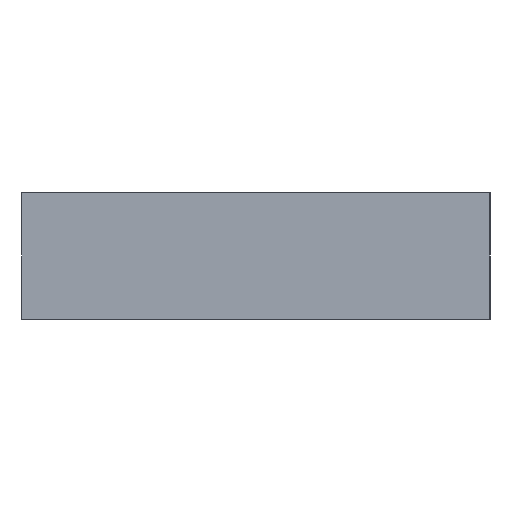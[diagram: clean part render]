
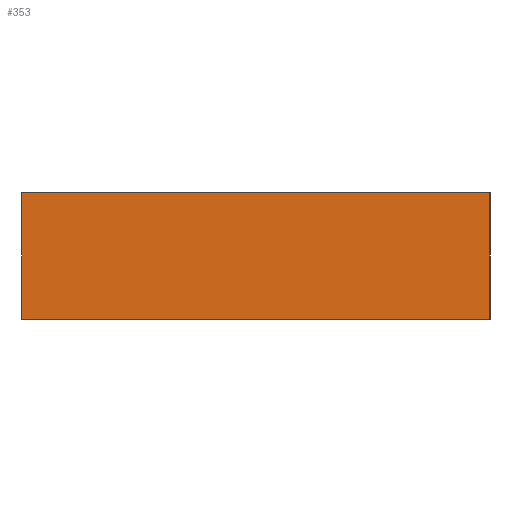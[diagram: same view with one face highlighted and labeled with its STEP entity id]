
A CAD part, left-side view. The second image highlights one B-rep face of the part: STEP entity #353.
In plain terms, the highlighted planar face has unit normal (-1, 0, 0).
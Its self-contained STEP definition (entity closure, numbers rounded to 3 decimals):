
#13 = LINE ( 'NONE', #611, #694 ) ;
#24 = CARTESIAN_POINT ( 'NONE',  ( -26., 44.4, 0. ) ) ;
#33 = VERTEX_POINT ( 'NONE', #214 ) ;
#51 = VERTEX_POINT ( 'NONE', #776 ) ;
#89 = LINE ( 'NONE', #733, #647 ) ;
#95 = DIRECTION ( 'NONE',  ( 0., 1., 0. ) ) ;
#108 = CARTESIAN_POINT ( 'NONE',  ( -26., 44.4, 12. ) ) ;
#109 = VERTEX_POINT ( 'NONE', #431 ) ;
#137 = DIRECTION ( 'NONE',  ( 0., 0., 1. ) ) ;
#156 = FACE_OUTER_BOUND ( 'NONE', #837, .T. ) ;
#161 = DIRECTION ( 'NONE',  ( 1., 0., 0. ) ) ;
#162 = VERTEX_POINT ( 'NONE', #108 ) ;
#174 = EDGE_CURVE ( 'NONE', #33, #109, #193, .T. ) ;
#193 = LINE ( 'NONE', #526, #255 ) ;
#214 = CARTESIAN_POINT ( 'NONE',  ( -26., 0., 0. ) ) ;
#255 = VECTOR ( 'NONE', #137, 1000. ) ;
#284 = PLANE ( 'NONE',  #361 ) ;
#286 = DIRECTION ( 'NONE',  ( 0., 0., 1. ) ) ;
#313 = ORIENTED_EDGE ( 'NONE', *, *, #659, .F. ) ;
#353 = ADVANCED_FACE ( 'NONE', ( #156 ), #284, .F. ) ;
#361 = AXIS2_PLACEMENT_3D ( 'NONE', #24, #161, #670 ) ;
#431 = CARTESIAN_POINT ( 'NONE',  ( -26., 0., 12. ) ) ;
#482 = DIRECTION ( 'NONE',  ( 0., 1., 0. ) ) ;
#509 = ORIENTED_EDGE ( 'NONE', *, *, #651, .F. ) ;
#526 = CARTESIAN_POINT ( 'NONE',  ( -26., 0., 0. ) ) ;
#542 = LINE ( 'NONE', #811, #806 ) ;
#601 = EDGE_CURVE ( 'NONE', #109, #162, #542, .T. ) ;
#611 = CARTESIAN_POINT ( 'NONE',  ( -26., 0., 0. ) ) ;
#631 = ORIENTED_EDGE ( 'NONE', *, *, #601, .T. ) ;
#647 = VECTOR ( 'NONE', #286, 1000. ) ;
#651 = EDGE_CURVE ( 'NONE', #33, #51, #13, .T. ) ;
#659 = EDGE_CURVE ( 'NONE', #51, #162, #89, .T. ) ;
#670 = DIRECTION ( 'NONE',  ( 0., 1., 0. ) ) ;
#683 = ORIENTED_EDGE ( 'NONE', *, *, #174, .T. ) ;
#694 = VECTOR ( 'NONE', #95, 1000. ) ;
#733 = CARTESIAN_POINT ( 'NONE',  ( -26., 44.4, 0. ) ) ;
#776 = CARTESIAN_POINT ( 'NONE',  ( -26., 44.4, 0. ) ) ;
#806 = VECTOR ( 'NONE', #482, 1000. ) ;
#811 = CARTESIAN_POINT ( 'NONE',  ( -26., 44.4, 12. ) ) ;
#837 = EDGE_LOOP ( 'NONE', ( #683, #631, #313, #509 ) ) ;
